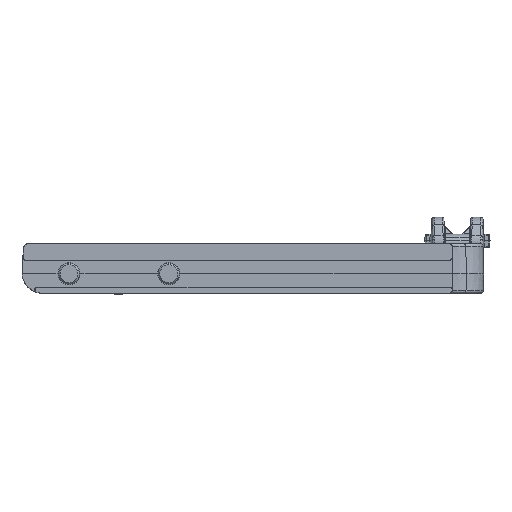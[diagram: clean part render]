
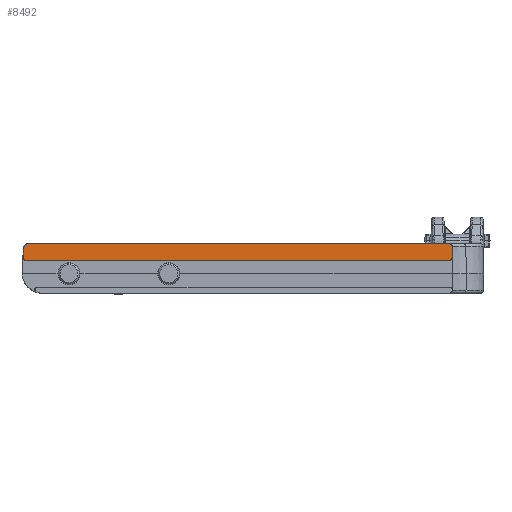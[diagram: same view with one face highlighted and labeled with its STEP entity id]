
A CAD part, front view. The second image highlights one B-rep face of the part: STEP entity #8492.
In plain terms, the highlighted planar face has unit normal (0, -1, 0).
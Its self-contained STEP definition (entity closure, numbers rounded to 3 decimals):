
#8492 = ADVANCED_FACE ( 'NONE', ( #11948 ), #11621, .F. ) ;
#11617 = CARTESIAN_POINT ( 'NONE',  ( -26.701, 0., -1.5 ) ) ;
#11621 = PLANE ( 'NONE',  #14313 ) ;
#11623 = DIRECTION ( 'NONE',  ( 0., 1., 0. ) ) ;
#11624 = DIRECTION ( 'NONE',  ( 0., 0., 1. ) ) ;
#11948 = FACE_OUTER_BOUND ( 'NONE', #28323, .T. ) ;
#14313 = AXIS2_PLACEMENT_3D ( 'NONE', #11617, #11623, #11624 ) ;
#18417 = CIRCLE ( 'NONE', #20596, 0.962 ) ;
#18425 = LINE ( 'NONE', #22912, #18428 ) ;
#18428 = VECTOR ( 'NONE', #22918, 1000. ) ;
#18440 = LINE ( 'NONE', #22971, #18443 ) ;
#18443 = VECTOR ( 'NONE', #22959, 1000. ) ;
#18444 = LINE ( 'NONE', #22977, #18447 ) ;
#18446 = LINE ( 'NONE', #22979, #18449 ) ;
#18447 = VECTOR ( 'NONE', #22978, 1000. ) ;
#18449 = VECTOR ( 'NONE', #22980, 1000. ) ;
#19596 =( BOUNDED_CURVE ( )  B_SPLINE_CURVE ( 3, ( #22905, #22900, #22908, #22909 ),
 .UNSPECIFIED., .F., .F. ) 
 B_SPLINE_CURVE_WITH_KNOTS ( ( 4, 4 ),
 ( 2.33, 3.953 ),
 .UNSPECIFIED. ) 
 CURVE ( )  GEOMETRIC_REPRESENTATION_ITEM ( )  RATIONAL_B_SPLINE_CURVE ( ( 1., 0.792, 0.792, 1. ) ) 
 REPRESENTATION_ITEM ( '' )  );
#19603 =( BOUNDED_CURVE ( )  B_SPLINE_CURVE ( 3, ( #22927, #22923, #22931, #22932 ),
 .UNSPECIFIED., .F., .F. ) 
 B_SPLINE_CURVE_WITH_KNOTS ( ( 4, 4 ),
 ( 5.498, 7.068 ),
 .UNSPECIFIED. ) 
 CURVE ( )  GEOMETRIC_REPRESENTATION_ITEM ( )  RATIONAL_B_SPLINE_CURVE ( ( 1., 0.805, 0.805, 1. ) ) 
 REPRESENTATION_ITEM ( '' )  );
#19606 =( BOUNDED_CURVE ( )  B_SPLINE_CURVE ( 3, ( #22929, #22930, #22935, #22936 ),
 .UNSPECIFIED., .F., .F. ) 
 B_SPLINE_CURVE_WITH_KNOTS ( ( 4, 4 ),
 ( 5.498, 7.068 ),
 .UNSPECIFIED. ) 
 CURVE ( )  GEOMETRIC_REPRESENTATION_ITEM ( )  RATIONAL_B_SPLINE_CURVE ( ( 1., 0.805, 0.805, 1. ) ) 
 REPRESENTATION_ITEM ( '' )  );
#19854 = VERTEX_POINT ( 'NONE', #22193 ) ;
#19944 = VERTEX_POINT ( 'NONE', #22245 ) ;
#19949 = VERTEX_POINT ( 'NONE', #22248 ) ;
#20001 = VERTEX_POINT ( 'NONE', #22280 ) ;
#20098 = VERTEX_POINT ( 'NONE', #22339 ) ;
#20106 = VERTEX_POINT ( 'NONE', #22344 ) ;
#20109 = VERTEX_POINT ( 'NONE', #22346 ) ;
#20153 = VERTEX_POINT ( 'NONE', #22373 ) ;
#20402 = EDGE_CURVE ( 'NONE', #19854, #20106, #18417, .T. ) ;
#20404 = EDGE_CURVE ( 'NONE', #19944, #20098, #19596, .T. ) ;
#20408 = EDGE_CURVE ( 'NONE', #20098, #20153, #18425, .T. ) ;
#20413 = EDGE_CURVE ( 'NONE', #20153, #20001, #19603, .T. ) ;
#20414 = EDGE_CURVE ( 'NONE', #19949, #20109, #19606, .T. ) ;
#20423 = EDGE_CURVE ( 'NONE', #20001, #19949, #18440, .T. ) ;
#20425 = EDGE_CURVE ( 'NONE', #20106, #20109, #18444, .T. ) ;
#20426 = EDGE_CURVE ( 'NONE', #19944, #19854, #18446, .T. ) ;
#20596 = AXIS2_PLACEMENT_3D ( 'NONE', #22902, #22903, #22904 ) ;
#22193 = CARTESIAN_POINT ( 'NONE',  ( -27.662, 0., -1.45 ) ) ;
#22245 = CARTESIAN_POINT ( 'NONE',  ( -27.751, 0., -3.149 ) ) ;
#22248 = CARTESIAN_POINT ( 'NONE',  ( 53.987, 0., -1.038 ) ) ;
#22280 = CARTESIAN_POINT ( 'NONE',  ( 53.987, 0., -3.175 ) ) ;
#22339 = CARTESIAN_POINT ( 'NONE',  ( -27.252, 0., -3.675 ) ) ;
#22344 = CARTESIAN_POINT ( 'NONE',  ( -26.701, 0., -0.538 ) ) ;
#22346 = CARTESIAN_POINT ( 'NONE',  ( 53.488, 0., -0.538 ) ) ;
#22373 = CARTESIAN_POINT ( 'NONE',  ( 53.488, 0., -3.675 ) ) ;
#22900 = CARTESIAN_POINT ( 'NONE',  ( -27.767, 0., -3.454 ) ) ;
#22902 = CARTESIAN_POINT ( 'NONE',  ( -26.701, 0., -1.5 ) ) ;
#22903 = DIRECTION ( 'NONE',  ( 0., 1., 0. ) ) ;
#22904 = DIRECTION ( 'NONE',  ( 0., 0., 1. ) ) ;
#22905 = CARTESIAN_POINT ( 'NONE',  ( -27.751, 0., -3.149 ) ) ;
#22908 = CARTESIAN_POINT ( 'NONE',  ( -27.557, 0., -3.675 ) ) ;
#22909 = CARTESIAN_POINT ( 'NONE',  ( -27.252, 0., -3.675 ) ) ;
#22912 = CARTESIAN_POINT ( 'NONE',  ( -38.703, 0., -3.675 ) ) ;
#22918 = DIRECTION ( 'NONE',  ( 1., 0., 0. ) ) ;
#22923 = CARTESIAN_POINT ( 'NONE',  ( 53.78, 0., -3.675 ) ) ;
#22927 = CARTESIAN_POINT ( 'NONE',  ( 53.488, 0., -3.675 ) ) ;
#22929 = CARTESIAN_POINT ( 'NONE',  ( 53.987, 0., -1.038 ) ) ;
#22930 = CARTESIAN_POINT ( 'NONE',  ( 53.987, 0., -0.745 ) ) ;
#22931 = CARTESIAN_POINT ( 'NONE',  ( 53.987, 0., -3.468 ) ) ;
#22932 = CARTESIAN_POINT ( 'NONE',  ( 53.987, 0., -3.175 ) ) ;
#22935 = CARTESIAN_POINT ( 'NONE',  ( 53.78, 0., -0.538 ) ) ;
#22936 = CARTESIAN_POINT ( 'NONE',  ( 53.488, 0., -0.538 ) ) ;
#22959 = DIRECTION ( 'NONE',  ( 0., 0., 1. ) ) ;
#22971 = CARTESIAN_POINT ( 'NONE',  ( 53.987, 0., -1.5 ) ) ;
#22977 = CARTESIAN_POINT ( 'NONE',  ( 0., 0., -0.538 ) ) ;
#22978 = DIRECTION ( 'NONE',  ( 1., 0., 0. ) ) ;
#22979 = CARTESIAN_POINT ( 'NONE',  ( -27.511, 0., 1.442 ) ) ;
#22980 = DIRECTION ( 'NONE',  ( 0.052, 0., 0.999 ) ) ;
#26385 = ORIENTED_EDGE ( 'NONE', *, *, #20423, .T. ) ;
#26387 = ORIENTED_EDGE ( 'NONE', *, *, #20414, .T. ) ;
#26389 = ORIENTED_EDGE ( 'NONE', *, *, #20425, .F. ) ;
#26391 = ORIENTED_EDGE ( 'NONE', *, *, #20402, .F. ) ;
#26394 = ORIENTED_EDGE ( 'NONE', *, *, #20426, .F. ) ;
#26396 = ORIENTED_EDGE ( 'NONE', *, *, #20404, .T. ) ;
#26398 = ORIENTED_EDGE ( 'NONE', *, *, #20408, .T. ) ;
#26400 = ORIENTED_EDGE ( 'NONE', *, *, #20413, .T. ) ;
#28323 = EDGE_LOOP ( 'NONE', ( #26385, #26387, #26389, #26391, #26394, #26396, #26398, #26400 ) ) ;
